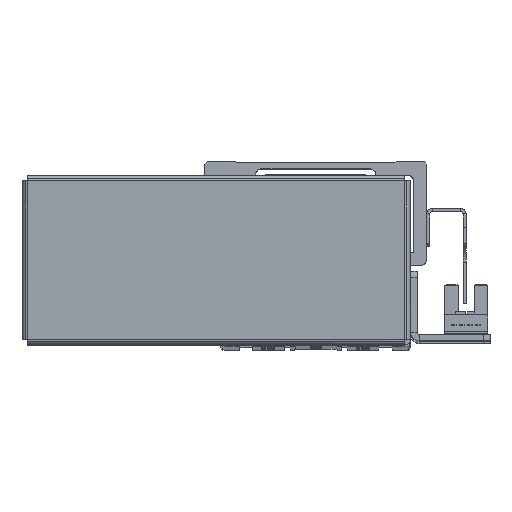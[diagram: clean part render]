
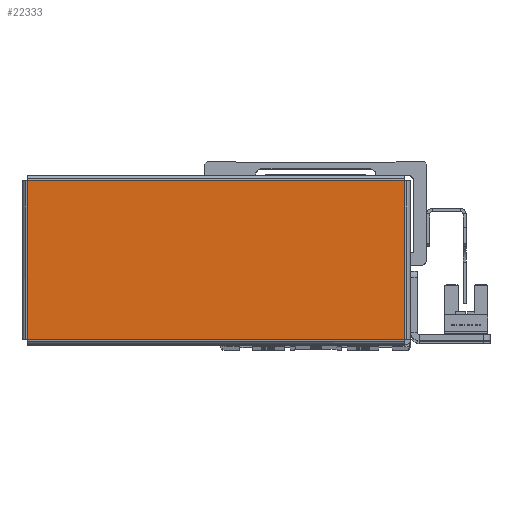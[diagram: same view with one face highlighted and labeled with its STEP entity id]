
A CAD part, top view. The second image highlights one B-rep face of the part: STEP entity #22333.
In plain terms, the highlighted planar face has unit normal (0, 0, 1) as drawn and (0, 0, -1) by its records, which use the part's own axes.
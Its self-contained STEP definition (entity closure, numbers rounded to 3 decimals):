
#8111 = VERTEX_POINT ( 'NONE', #10831 ) ;
#8133 = VERTEX_POINT ( 'NONE', #22127 ) ;
#8143 = VERTEX_POINT ( 'NONE', #22089 ) ;
#8149 = VERTEX_POINT ( 'NONE', #22077 ) ;
#9437 = EDGE_LOOP ( 'NONE', ( #15943, #15999, #15990, #16035 ) ) ;
#10831 = CARTESIAN_POINT ( 'NONE',  ( -59.513, -25.013, -1. ) ) ;
#13264 = EDGE_CURVE ( 'NONE', #8111, #8149, #13954, .T. ) ;
#13318 = EDGE_CURVE ( 'NONE', #8143, #8111, #14034, .T. ) ;
#13321 = EDGE_CURVE ( 'NONE', #8133, #8143, #14026, .T. ) ;
#13324 = EDGE_CURVE ( 'NONE', #8149, #8133, #14047, .T. ) ;
#13954 = LINE ( 'NONE', #19555, #13985 ) ;
#13985 = VECTOR ( 'NONE', #19549, 1000. ) ;
#14026 = LINE ( 'NONE', #19739, #14068 ) ;
#14034 = LINE ( 'NONE', #19744, #14038 ) ;
#14038 = VECTOR ( 'NONE', #19747, 1000. ) ;
#14047 = LINE ( 'NONE', #19753, #14051 ) ;
#14051 = VECTOR ( 'NONE', #19735, 1000. ) ;
#14068 = VECTOR ( 'NONE', #19717, 1000. ) ;
#15943 = ORIENTED_EDGE ( 'NONE', *, *, #13321, .T. ) ;
#15990 = ORIENTED_EDGE ( 'NONE', *, *, #13264, .T. ) ;
#15999 = ORIENTED_EDGE ( 'NONE', *, *, #13318, .T. ) ;
#16035 = ORIENTED_EDGE ( 'NONE', *, *, #13324, .T. ) ;
#19549 = DIRECTION ( 'NONE',  ( 0., 1., 0. ) ) ;
#19555 = CARTESIAN_POINT ( 'NONE',  ( -59.513, -25.043, -1. ) ) ;
#19717 = DIRECTION ( 'NONE',  ( 0., -1., 0. ) ) ;
#19735 = DIRECTION ( 'NONE',  ( 1., 0., 0. ) ) ;
#19739 = CARTESIAN_POINT ( 'NONE',  ( 59.513, 25.043, -1. ) ) ;
#19744 = CARTESIAN_POINT ( 'NONE',  ( 59.543, -25.013, -1. ) ) ;
#19747 = DIRECTION ( 'NONE',  ( -1., 0., 0. ) ) ;
#19753 = CARTESIAN_POINT ( 'NONE',  ( -59.543, 25.013, -1. ) ) ;
#22077 = CARTESIAN_POINT ( 'NONE',  ( -59.513, 25.013, -1. ) ) ;
#22089 = CARTESIAN_POINT ( 'NONE',  ( 59.513, -25.013, -1. ) ) ;
#22127 = CARTESIAN_POINT ( 'NONE',  ( 59.513, 25.013, -1. ) ) ;
#22333 = ADVANCED_FACE ( 'NONE', ( #29422 ), #22946, .F. ) ;
#22941 = DIRECTION ( 'NONE',  ( 1., 0., 0. ) ) ;
#22945 = DIRECTION ( 'NONE',  ( 0., 0., 1. ) ) ;
#22946 = PLANE ( 'NONE',  #26514 ) ;
#22981 = CARTESIAN_POINT ( 'NONE',  ( 0., 0., -1. ) ) ;
#26514 = AXIS2_PLACEMENT_3D ( 'NONE', #22981, #22945, #22941 ) ;
#29422 = FACE_OUTER_BOUND ( 'NONE', #9437, .T. ) ;
